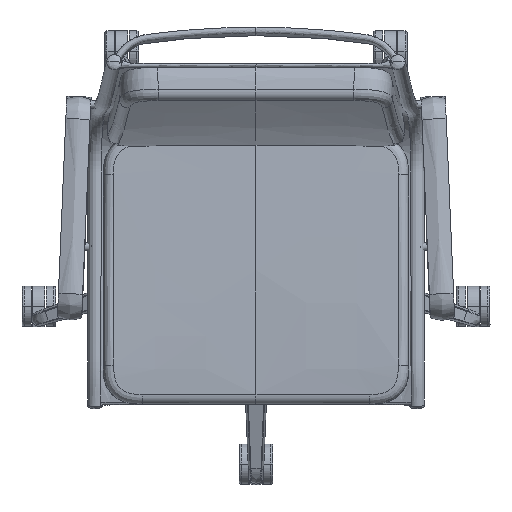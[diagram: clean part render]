
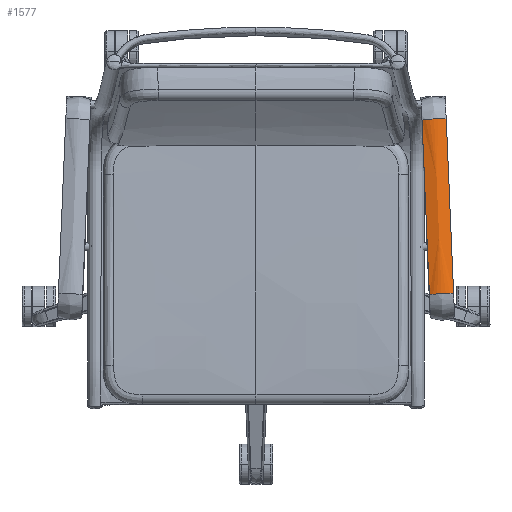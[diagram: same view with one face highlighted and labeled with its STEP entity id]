
A CAD part, top view. The second image highlights one B-rep face of the part: STEP entity #1577.
In plain terms, the highlighted free-form (B-spline) face has degree [3, 2] with [4, 3] control points.
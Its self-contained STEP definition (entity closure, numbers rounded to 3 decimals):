
#600=(
BOUNDED_CURVE()
B_SPLINE_CURVE(2,(#25947,#25948,#25949),.UNSPECIFIED.,.F.,.F.)
B_SPLINE_CURVE_WITH_KNOTS((3,3),(0.,37.482),.UNSPECIFIED.)
CURVE()
GEOMETRIC_REPRESENTATION_ITEM()
RATIONAL_B_SPLINE_CURVE((1.,0.882,1.))
REPRESENTATION_ITEM('')
);
#602=(
BOUNDED_CURVE()
B_SPLINE_CURVE(3,(#25961,#25962,#25963,#25964),.UNSPECIFIED.,.F.,.F.)
B_SPLINE_CURVE_WITH_KNOTS((4,4),(0.,260.717),.UNSPECIFIED.)
CURVE()
GEOMETRIC_REPRESENTATION_ITEM()
RATIONAL_B_SPLINE_CURVE((1.,1.,1.,1.))
REPRESENTATION_ITEM('')
);
#603=(
BOUNDED_CURVE()
B_SPLINE_CURVE(2,(#25965,#25966,#25967),.UNSPECIFIED.,.F.,.F.)
B_SPLINE_CURVE_WITH_KNOTS((3,3),(0.,37.482),.UNSPECIFIED.)
CURVE()
GEOMETRIC_REPRESENTATION_ITEM()
RATIONAL_B_SPLINE_CURVE((1.,0.882,1.))
REPRESENTATION_ITEM('')
);
#604=(
BOUNDED_CURVE()
B_SPLINE_CURVE(3,(#25968,#25969,#25970,#25971),.UNSPECIFIED.,.F.,.F.)
B_SPLINE_CURVE_WITH_KNOTS((4,4),(-260.717,0.),.UNSPECIFIED.)
CURVE()
GEOMETRIC_REPRESENTATION_ITEM()
RATIONAL_B_SPLINE_CURVE((1.,1.,1.,1.))
REPRESENTATION_ITEM('')
);
#1028=(
BOUNDED_SURFACE()
B_SPLINE_SURFACE(3,2,((#25451,#25452,#25453),(#25454,#25455,#25456),(#25457,
#25458,#25459),(#25460,#25461,#25462)),.UNSPECIFIED.,.F.,.F.,.F.)
B_SPLINE_SURFACE_WITH_KNOTS((4,4),(3,3),(0.,260.717),(0.,37.482),
 .UNSPECIFIED.)
GEOMETRIC_REPRESENTATION_ITEM()
RATIONAL_B_SPLINE_SURFACE(((1.,0.882,1.),(1.,0.882,
1.),(1.,0.882,1.),(1.,0.882,1.)))
REPRESENTATION_ITEM('')
SURFACE()
);
#1577=ADVANCED_FACE('',(#2092),#1028,.T.);
#2092=FACE_OUTER_BOUND('',#2610,.T.);
#2610=EDGE_LOOP('',(#4427,#4428,#4429,#4430));
#4427=ORIENTED_EDGE('',*,*,#5910,.T.);
#4428=ORIENTED_EDGE('',*,*,#5911,.T.);
#4429=ORIENTED_EDGE('',*,*,#5912,.T.);
#4430=ORIENTED_EDGE('',*,*,#5908,.F.);
#5908=EDGE_CURVE('',#7317,#7318,#600,.T.);
#5910=EDGE_CURVE('',#7317,#7319,#602,.T.);
#5911=EDGE_CURVE('',#7319,#7320,#603,.T.);
#5912=EDGE_CURVE('',#7320,#7318,#604,.T.);
#7317=VERTEX_POINT('',#25719);
#7318=VERTEX_POINT('',#25720);
#7319=VERTEX_POINT('',#25721);
#7320=VERTEX_POINT('',#25722);
#25451=CARTESIAN_POINT('',(293.384,-68.132,687.235));
#25452=CARTESIAN_POINT('',(275.382,-68.057,696.832));
#25453=CARTESIAN_POINT('',(257.416,-69.653,687.301));
#25454=CARTESIAN_POINT('',(289.712,18.366,679.67));
#25455=CARTESIAN_POINT('',(271.711,18.441,689.267));
#25456=CARTESIAN_POINT('',(253.744,16.845,679.737));
#25457=CARTESIAN_POINT('',(286.041,104.864,672.105));
#25458=CARTESIAN_POINT('',(268.039,104.939,681.702));
#25459=CARTESIAN_POINT('',(250.073,103.343,672.172));
#25460=CARTESIAN_POINT('',(282.369,191.362,664.541));
#25461=CARTESIAN_POINT('',(264.367,191.437,674.137));
#25462=CARTESIAN_POINT('',(246.401,189.841,664.607));
#25719=CARTESIAN_POINT('',(293.384,-68.132,687.235));
#25720=CARTESIAN_POINT('',(257.416,-69.653,687.301));
#25721=CARTESIAN_POINT('',(282.369,191.362,664.541));
#25722=CARTESIAN_POINT('',(246.401,189.841,664.607));
#25947=CARTESIAN_POINT('',(293.384,-68.132,687.235));
#25948=CARTESIAN_POINT('',(275.382,-68.057,696.832));
#25949=CARTESIAN_POINT('',(257.416,-69.653,687.301));
#25961=CARTESIAN_POINT('',(293.384,-68.132,687.235));
#25962=CARTESIAN_POINT('',(289.712,18.366,679.67));
#25963=CARTESIAN_POINT('',(286.041,104.864,672.105));
#25964=CARTESIAN_POINT('',(282.369,191.362,664.541));
#25965=CARTESIAN_POINT('',(282.369,191.362,664.541));
#25966=CARTESIAN_POINT('',(264.367,191.437,674.137));
#25967=CARTESIAN_POINT('',(246.401,189.841,664.607));
#25968=CARTESIAN_POINT('',(246.401,189.841,664.607));
#25969=CARTESIAN_POINT('',(250.073,103.343,672.172));
#25970=CARTESIAN_POINT('',(253.744,16.845,679.737));
#25971=CARTESIAN_POINT('',(257.416,-69.653,687.301));
